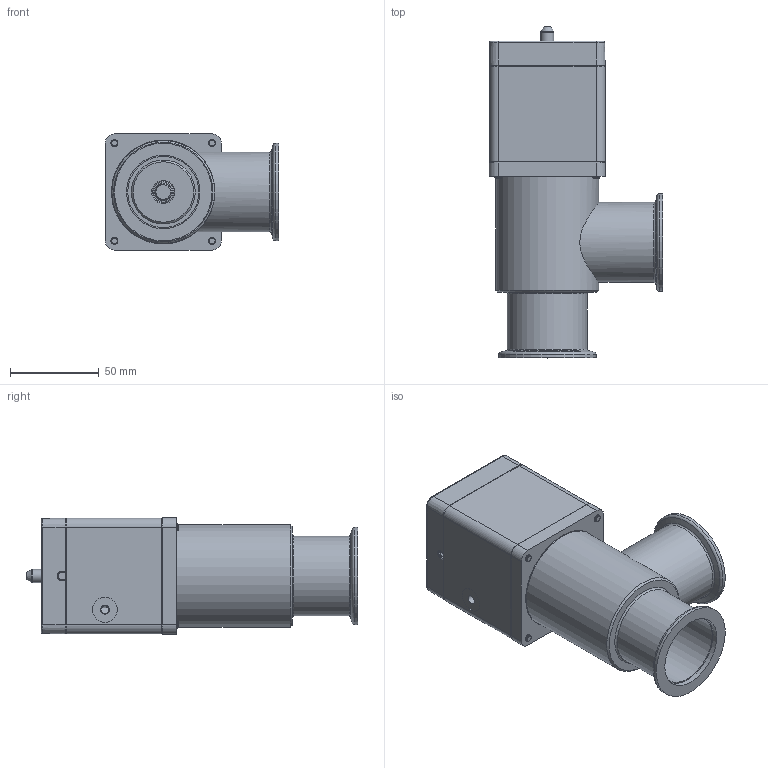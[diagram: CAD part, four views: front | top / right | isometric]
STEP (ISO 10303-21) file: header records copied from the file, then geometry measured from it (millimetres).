
FILE_DESCRIPTION(/* description */ (''),/* implementation_level */ '2;1');
FILE_NAME(/* name */ '1470899218_203.stp',/* time_stamp */ '2013-08-30T06:36:23+02:00',/* author */ (''),/* organization */ (''),/* preprocessor_version */ 'ST-DEVELOPER v11',/* originating_system */ 'SIEMENS PLM Software NX 7.5',/* authorisation */ '');
FILE_SCHEMA (('AP203_CONFIGURATION_CONTROLLED_3D_DESIGN_OF_MECHANICAL_PARTS_AND_ASSEMBLIES_MIM_LF'));
Length unit declared in the file: millimetre
Products named in the file (11): 233232; 236204_1.1; 240513.1; 240512.10; 240511.9; 243875.2; 239737.6; 240792.1; 239984.1; 240510.14; 701676
Assembly tree (14 placements, depth 3):
  701676
    240792.1  x4
    239737.6
    240510.14
      240511.9
      240512.10
      240513.1
    243875.2
    239984.1
      236204_1.1  x2
      233232
Bounding box: 97.7 x 186.79 x 65.4 mm (x, y, z)
Volume: 224539.8 mm3; surface area: 127042.7 mm2
Topology: 20 solids, 20 shells, 567 faces, 1394 edges, 908 vertices
Faces by surface type: plane 331, cylinder 130, cone 71, bspline 19, torus 16
Full cylindrical faces by diameter (mm): 2.5 x3, 2.95 x1, 3 x7, 3.26 x4, 3.3 x4, 4 x12, 4.5 x5, 4.6 x1, 4.7 x3, 5 x1, 5.6 x2, 7 x4, 7.4 x1, 8 x7, 9.1 x1, 10 x1, 11.975 x3, 12.012 x1, 12.013 x1, 13.85 x1, 14 x1, 16.555 x1, 36 x1, 40 x3, 41.3 x2, 45 x2, 54 x1, 54.9 x2, 57.9 x1, 58.3 x1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
Entity records: 16540 total; most frequent: CARTESIAN_POINT 3454, DIRECTION 2345, ORIENTED_EDGE 2172, EDGE_CURVE 1086, AXIS2_PLACEMENT_3D 826, VERTEX_POINT 786, EDGE_LOOP 703, LINE 693
